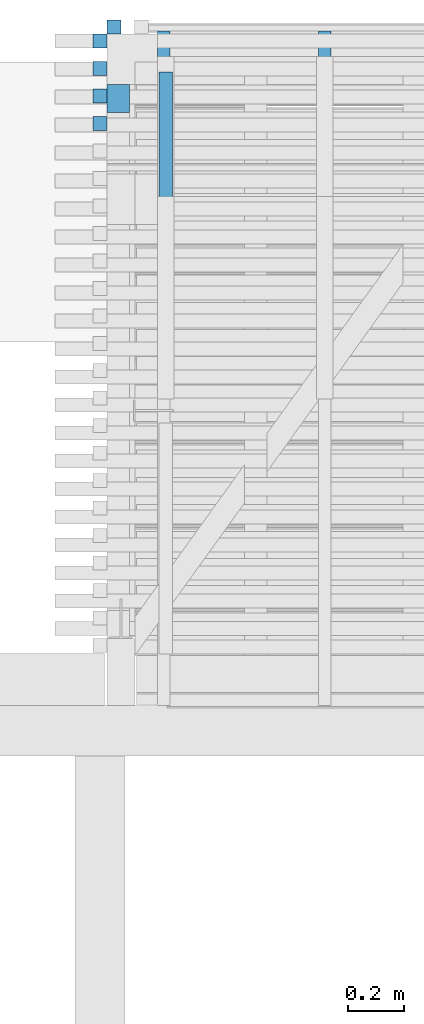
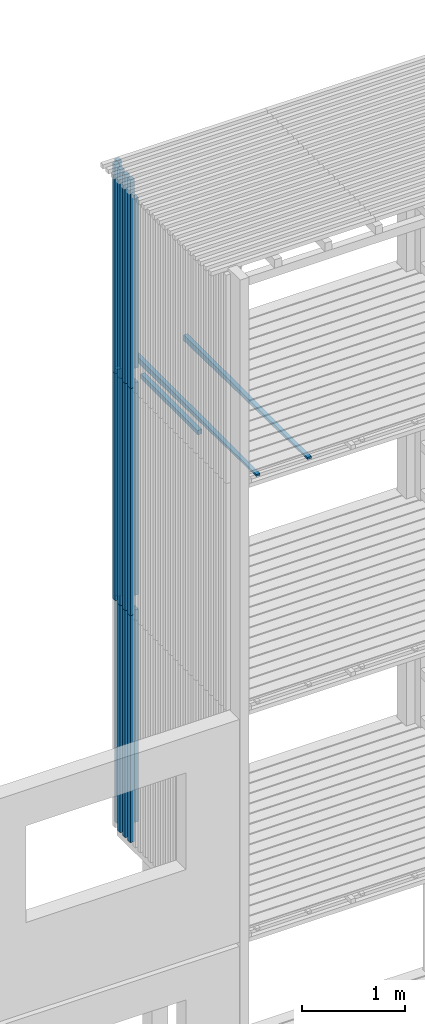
# One storey, part 64 of 182: 20 beams.
"""IFC2X3 building model written with IfcOpenShell, lengths in metres."""

import ifcopenshell
import ifcopenshell.guid

model = None  # the IFC model being written
_history = None  # IfcOwnerHistory: only IFC2X3 demands one
_inside = {}  # id of a spatial element -> (the spatial element, [elements in it])
_under = {}  # id of a project, library or spatial element -> (it, [spatial elements below it])
_declared = {}  # id of a project -> (the project, [libraries it declares])
_typed = {}  # id of a type object -> (the type object, [elements of that type])
_made_of = {}  # id of a material, layer set ... -> (it, [elements and type objects made of it])


def new_model(schema):
    """Start an empty IFC model of exactly this schema.

    Asked for "IFC4X3", IfcOpenShell would pick the latest addendum, in which some entities
    have other attributes; the version numbers below select the first issue.
    IFC2X3 requires an IfcOwnerHistory on every rooted entity: one is made here for all.
    """
    global model, _history
    if schema == "IFC4X3":
        model = ifcopenshell.file(schema_version=(4, 3, 0, 0))
    else:
        model = ifcopenshell.file(schema=schema)
    _inside.clear()
    _under.clear()
    _declared.clear()
    _typed.clear()
    _made_of.clear()
    _history = None
    if model.schema == "IFC2X3":
        org = make("IfcOrganization", Name="unknown")
        user = make(
            "IfcPersonAndOrganization",
            ThePerson=make("IfcPerson", FamilyName="unknown"),
            TheOrganization=org,
        )
        app = make(
            "IfcApplication",
            ApplicationDeveloper=org,
            Version="unknown",
            ApplicationFullName="unknown",
            ApplicationIdentifier="unknown",
        )
        _history = make(
            "IfcOwnerHistory",
            OwningUser=user,
            OwningApplication=app,
            ChangeAction="ADDED",
            CreationDate=0,
        )
    return model


def make(cls, **values):
    """One entity of the class cls with the attributes given. An attribute that is None is left unset."""
    return model.create_entity(
        cls, **{name: value for name, value in values.items() if value is not None}
    )


def rooted(cls, **values):
    """An entity with a GlobalId (a new one), such as an element, a storey or a relation."""
    return make(cls, GlobalId=ifcopenshell.guid.new(), OwnerHistory=_history, **values)


def si_unit(unit_type, name, prefix=None):
    """IfcSIUnit, for example si_unit("LENGTHUNIT", "METRE", prefix="MILLI")."""
    return make("IfcSIUnit", UnitType=unit_type, Prefix=prefix, Name=name)


def assignment(units):
    """IfcUnitAssignment: the units of a project."""
    return None if units is None else make("IfcUnitAssignment", Units=units)


def point(xyz):
    """IfcCartesianPoint."""
    return None if xyz is None else make("IfcCartesianPoint", Coordinates=xyz)


def direction(xyz):
    """IfcDirection."""
    return None if xyz is None else make("IfcDirection", DirectionRatios=xyz)


def frame(location, z_axis=None, x_axis=None):
    """IfcAxis2Placement3D, a coordinate frame: its origin and axes. An axis left out is left unset."""
    return make(
        "IfcAxis2Placement3D",
        Location=point(location),
        Axis=direction(z_axis),
        RefDirection=direction(x_axis),
    )


def origin():
    """The frame at (0, 0, 0) with its axes left unset."""
    return frame((0.0, 0.0, 0.0))


def place(relative_to, where):
    """IfcLocalPlacement: puts the frame where relative to a parent placement (None: the world)."""
    return make(
        "IfcLocalPlacement", PlacementRelTo=relative_to, RelativePlacement=where
    )


def context(
    kind, dimensions, precision=None, world=None, true_north=None, identifier=None
):
    """IfcGeometricRepresentationContext, for example the 3D "Model" context."""
    return make(
        "IfcGeometricRepresentationContext",
        ContextIdentifier=identifier,
        ContextType=kind,
        CoordinateSpaceDimension=dimensions,
        Precision=precision,
        WorldCoordinateSystem=world,
        TrueNorth=true_north,
    )


def project(units=None, contexts=None):
    """IfcProject with its units and contexts."""
    return rooted(
        "IfcProject",
        Name="project",
        RepresentationContexts=contexts,
        UnitsInContext=assignment(units),
    )


def spatial(cls, under=None, at=None, **own):
    """A site, building, storey or space (cls), placed at a placement, below another one or the project."""
    s = rooted(cls, ObjectPlacement=at, **own)
    if under is not None:
        _under.setdefault(under.id(), (under, []))[1].append(s)
    return s


def faces_of(points, faces, orient=None, outer=None):
    """IfcFace entities. A face is a list of loops; a loop is a list of indices into points, from 0.

    orient and outer hold one flag for each loop. By default every Orientation is true, the
    first loop of a face is its IfcFaceOuterBound and the others are IfcFaceBound.
    """
    made = []
    for i, loops in enumerate(faces):
        bounds = []
        for j, loop in enumerate(loops):
            is_outer = j == 0 if outer is None else outer[i][j]
            bounds.append(
                make(
                    "IfcFaceOuterBound" if is_outer else "IfcFaceBound",
                    Bound=make("IfcPolyLoop", Polygon=[points[k] for k in loop]),
                    Orientation=True if orient is None else orient[i][j],
                )
            )
        made.append(make("IfcFace", Bounds=bounds))
    return made


def faceted_brep(points, faces, orient=None, outer=None, voids=None):
    """IfcFacetedBrep: a solid bounded by flat faces; with voids (closed shells), ...WithVoids."""
    shared = [point(p) for p in points]
    hull = make("IfcClosedShell", CfsFaces=faces_of(shared, faces, orient, outer))
    if voids is None:
        return make("IfcFacetedBrep", Outer=hull)
    return make(
        "IfcFacetedBrepWithVoids",
        Outer=hull,
        Voids=[
            make(cls, CfsFaces=faces_of(shared, fs, o, b)) for cls, fs, o, b in voids
        ],
    )


def shape(context_of_items, identifier, shape_type, items):
    """IfcShapeRepresentation: the items that make up one representation, for example the "Body"."""
    return make(
        "IfcShapeRepresentation",
        ContextOfItems=context_of_items,
        RepresentationIdentifier=identifier,
        RepresentationType=shape_type,
        Items=items,
    )


def made_of(thing, what):
    """Note that an element or type object is made of a material, layer set ...; save() writes the relation."""
    if what is not None:
        _made_of.setdefault(what.id(), (what, []))[1].append(thing)
    return thing


def element(
    cls,
    number,
    at=None,
    inside=None,
    cuts=None,
    type_object=None,
    material=None,
    context=None,
    identifier="Body",
    shape_type=None,
    held_by="IfcProductDefinitionShape",
    body=None,
    shapes=None,
    **own,
):
    """One element of the class cls, such as IfcWall. Its Tag is "e" and its number.

    at: its placement. inside: the storey or other place that contains it. cuts: it is an
    opening in that element (IfcRelVoidsElement). A single representation is given by context,
    identifier, shape_type and body (its items); several are given by shapes. held_by: the class
    of the entity that holds the representations. save() writes the other relations.
    """
    e = rooted(cls, Tag="e%d" % number, ObjectPlacement=at, **own)
    if body is not None:
        shapes = [shape(context, identifier, shape_type, body)]
    if shapes is not None:
        e.Representation = make(held_by, Representations=shapes)
    if inside is not None:
        _inside.setdefault(inside.id(), (inside, []))[1].append(e)
    if cuts is not None:
        rooted(
            "IfcRelVoidsElement", RelatingBuildingElement=cuts, RelatedOpeningElement=e
        )
    if type_object is not None:
        _typed.setdefault(type_object.id(), (type_object, []))[1].append(e)
    return made_of(e, material)


def aggregate(whole, parts):
    """IfcRelAggregates: a whole, such as a stair, and the parts it consists of."""
    return rooted("IfcRelAggregates", RelatingObject=whole, RelatedObjects=parts)


def save(model, path):
    """Write the relations noted so far, then the file.

    IfcRelAggregates (storeys below a building ...), IfcRelContainedInSpatialStructure (elements
    in a storey), IfcRelDefinesByType, IfcRelAssociatesMaterial and IfcRelDeclares: one each for
    every whole, place, type object, material and project.
    """
    for whole, parts in _under.values():
        aggregate(whole, parts)
    for where, things in _inside.values():
        rooted(
            "IfcRelContainedInSpatialStructure",
            RelatedElements=things,
            RelatingStructure=where,
        )
    for kind, things in _typed.values():
        rooted("IfcRelDefinesByType", RelatedObjects=things, RelatingType=kind)
    for what, things in _made_of.values():
        rooted("IfcRelAssociatesMaterial", RelatedObjects=things, RelatingMaterial=what)
    for by, libraries in _declared.values():
        rooted("IfcRelDeclares", RelatingContext=by, RelatedDefinitions=libraries)
    model.write(path)


model = new_model("IFC2X3")

# Units and contexts
model_context = context("Model", 3, precision=1e-06, world=origin())
ifc_project = project(units=[si_unit("LENGTHUNIT", "METRE"), si_unit("PLANEANGLEUNIT", "RADIAN")], contexts=[model_context])

# Site, building, storey
site = spatial("IfcSite", under=ifc_project, CompositionType="ELEMENT")
building = spatial("IfcBuilding", under=site, CompositionType="ELEMENT")
storey = spatial("IfcBuildingStorey", under=building, Name="vs", CompositionType="ELEMENT", Elevation=-0.85)

# Beams
placement = place(None, origin())
beam_1_placement = place(placement, frame((23.019999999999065, 12.550532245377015, 5.274999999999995), z_axis=(1.0, 0.0, 0.0), x_axis=(0.0, 0.0, 1.0)))
element("IfcBeam", 1, at=beam_1_placement, inside=storey, Name="Bardage", context=model_context, shape_type="Brep", body=[
    faceted_brep([(2.699999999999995, 0.025000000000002, 0.025000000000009), (2.699999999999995, -0.025000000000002, 0.025000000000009), (2.699999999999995, -0.025000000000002, -0.025000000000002), (2.699999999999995, 0.025000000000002, -0.025000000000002), (1e-15, 0.025000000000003, 0.025000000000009), (2.699999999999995, 0.025000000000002, 0.025000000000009), (2.699999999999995, 0.025000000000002, -0.025000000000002), (1e-15, 0.025000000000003, -0.025000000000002), (1e-15, -0.025000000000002, 0.025000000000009), (1e-15, 0.025000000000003, 0.025000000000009), (1e-15, 0.025000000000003, -0.025000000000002), (1e-15, -0.025000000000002, -0.025000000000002), (1e-15, 0.025000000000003, 0.025000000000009), (1e-15, -0.025000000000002, 0.025000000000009), (2.699999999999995, -0.025000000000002, 0.025000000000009), (2.699999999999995, 0.025000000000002, 0.025000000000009), (1e-15, -0.025000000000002, 0.025000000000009), (1e-15, -0.025000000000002, -0.025000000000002), (2.699999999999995, -0.025000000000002, -0.025000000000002), (2.699999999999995, -0.025000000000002, 0.025000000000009), (1e-15, -0.025000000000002, -0.025000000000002), (1e-15, 0.025000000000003, -0.025000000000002), (2.699999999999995, 0.025000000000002, -0.025000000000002), (2.699999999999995, -0.025000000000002, -0.025000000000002)], [[[0, 1, 2, 3]], [[4, 5, 6, 7]], [[8, 9, 10, 11]], [[12, 13, 14, 15]], [[16, 17, 18, 19]], [[20, 21, 22, 23]]]),
])
beam_2_placement = place(placement, frame((23.08499999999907, 12.640077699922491, 8.146999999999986), z_axis=(0.0, -1.0, 0.0), x_axis=(0.0, 0.0, 1.0)))
element("IfcBeam", 2, at=beam_2_placement, inside=storey, Name="Support bardage", context=model_context, shape_type="Brep", body=[
    faceted_brep([(2.017999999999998, -0.040000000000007, -0.050000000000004), (2.017999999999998, 0.039999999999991, -0.050000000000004), (2.017999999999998, 0.039999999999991, 0.049999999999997), (2.017999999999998, -0.040000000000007, 0.049999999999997), (1e-15, 0.039999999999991, -0.050000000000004), (1e-15, -0.040000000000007, -0.050000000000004), (1e-15, -0.040000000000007, 0.049999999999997), (1e-15, 0.039999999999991, 0.049999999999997), (2.017999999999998, 0.039999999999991, 0.049999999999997), (2.017999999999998, 0.039999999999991, -0.050000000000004), (1e-15, 0.039999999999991, -0.050000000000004), (1e-15, 0.039999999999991, 0.049999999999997), (1e-15, 0.039999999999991, -0.050000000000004), (2.017999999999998, 0.039999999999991, -0.050000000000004), (2.017999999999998, -0.040000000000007, -0.050000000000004), (1e-15, -0.040000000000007, -0.050000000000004), (1e-15, -0.040000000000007, -0.050000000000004), (2.017999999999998, -0.040000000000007, -0.050000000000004), (2.017999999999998, -0.040000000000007, 0.049999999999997), (1e-15, -0.040000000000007, 0.049999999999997), (1e-15, -0.040000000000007, 0.049999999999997), (2.017999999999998, -0.040000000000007, 0.049999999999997), (2.017999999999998, 0.039999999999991, 0.049999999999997), (1e-15, 0.039999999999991, 0.049999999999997)], [[[0, 1, 2, 3]], [[4, 5, 6, 7]], [[8, 9, 10, 11]], [[12, 13, 14, 15]], [[16, 17, 18, 19]], [[20, 21, 22, 23]]]),
])
beam_3_placement = place(placement, frame((23.019999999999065, 12.648714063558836, 7.974999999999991), z_axis=(1.0, 0.0, 0.0), x_axis=(0.0, 0.0, 1.0)))
element("IfcBeam", 3, at=beam_3_placement, inside=storey, Name="Bardage", context=model_context, shape_type="Brep", body=[
    faceted_brep([(0.0, -0.024999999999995, 0.025000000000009), (0.0, 0.025000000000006, 0.025000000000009), (0.0, 0.025000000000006, -0.025000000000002), (0.0, -0.024999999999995, -0.025000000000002), (2.479999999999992, 0.025000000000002, -0.025000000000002), (2.479999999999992, 0.025000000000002, 0.025000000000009), (2.479999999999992, -0.024999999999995, 0.025000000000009), (2.479999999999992, -0.024999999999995, -0.025000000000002), (0.0, 0.025000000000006, 0.025000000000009), (0.0, -0.024999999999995, 0.025000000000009), (2.479999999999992, -0.024999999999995, 0.025000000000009), (2.479999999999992, 0.025000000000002, 0.025000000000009), (0.0, 0.025000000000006, -0.025000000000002), (0.0, 0.025000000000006, 0.025000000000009), (2.479999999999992, 0.025000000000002, 0.025000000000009), (2.479999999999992, 0.025000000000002, -0.025000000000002), (0.0, -0.024999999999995, -0.025000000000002), (0.0, 0.025000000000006, -0.025000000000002), (2.479999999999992, 0.025000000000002, -0.025000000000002), (2.479999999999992, -0.024999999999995, -0.025000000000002), (2.479999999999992, -0.024999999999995, 0.025000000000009), (0.0, -0.024999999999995, 0.025000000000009), (0.0, -0.024999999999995, -0.025000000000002), (2.479999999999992, -0.024999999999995, -0.025000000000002)], [[[0, 1, 2, 3]], [[4, 5, 6, 7]], [[8, 9, 10, 11]], [[12, 13, 14, 15]], [[16, 17, 18, 19]], [[20, 21, 22, 23]]]),
])
beam_4_placement = place(placement, frame((23.06999999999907, 12.895077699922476, 7.974999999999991), z_axis=(0.0, -1.0, 0.0), x_axis=(0.0, 0.0, 1.0)))
element("IfcBeam", 4, at=beam_4_placement, inside=storey, Name="Bardage", context=model_context, shape_type="Brep", body=[
    faceted_brep([(2.479999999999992, -0.025000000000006, 0.025000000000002), (2.479999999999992, -0.024999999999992, -0.024999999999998), (2.479999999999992, 0.025000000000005, -0.024999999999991), (2.479999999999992, 0.024999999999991, 0.025000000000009), (0.0, 0.024999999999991, 0.025000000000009), (0.0, -0.025000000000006, 0.025000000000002), (2.479999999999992, -0.025000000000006, 0.025000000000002), (2.479999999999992, 0.024999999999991, 0.025000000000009), (0.0, -0.025000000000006, 0.025000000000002), (0.0, 0.024999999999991, 0.025000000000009), (0.0, 0.025000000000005, -0.024999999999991), (0.0, -0.024999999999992, -0.024999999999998), (0.0, 0.025000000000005, -0.024999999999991), (0.0, 0.024999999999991, 0.025000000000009), (2.479999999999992, 0.024999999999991, 0.025000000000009), (2.479999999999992, 0.025000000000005, -0.024999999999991), (0.0, -0.024999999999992, -0.024999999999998), (0.0, 0.025000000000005, -0.024999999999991), (2.479999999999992, 0.025000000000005, -0.024999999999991), (2.479999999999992, -0.024999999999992, -0.024999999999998), (2.479999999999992, -0.025000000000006, 0.025000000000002), (0.0, -0.025000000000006, 0.025000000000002), (0.0, -0.024999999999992, -0.024999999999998), (2.479999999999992, -0.024999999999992, -0.024999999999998)], [[[0, 1, 2, 3]], [[4, 5, 6, 7]], [[8, 9, 10, 11]], [[12, 13, 14, 15]], [[16, 17, 18, 19]], [[20, 21, 22, 23]]]),
])
beam_5_placement = place(placement, frame((23.019999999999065, 12.648714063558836, 2.575000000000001), z_axis=(1.0, 0.0, 0.0), x_axis=(0.0, 0.0, 1.0)))
element("IfcBeam", 5, at=beam_5_placement, inside=storey, Name="Bardage", context=model_context, shape_type="Brep", body=[
    faceted_brep([(2.699961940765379, -0.024999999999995, 0.025000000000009), (2.699961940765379, -0.024999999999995, -0.025000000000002), (2.699961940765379, 0.025000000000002, -0.025000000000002), (2.699961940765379, 0.025000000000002, 0.025000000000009), (0.0, -0.024999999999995, 0.025000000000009), (2.699961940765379, -0.024999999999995, 0.025000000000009), (2.699961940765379, 0.025000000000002, 0.025000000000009), (0.0, 0.025000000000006, 0.025000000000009), (0.0, -0.024999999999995, 0.025000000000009), (0.0, 0.025000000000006, 0.025000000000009), (0.0, 0.025000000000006, -0.025000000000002), (0.0, -0.024999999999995, -0.025000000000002), (0.0, -0.024999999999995, 0.025000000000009), (0.0, -0.024999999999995, -0.025000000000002), (2.699961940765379, -0.024999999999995, -0.025000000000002), (2.699961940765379, -0.024999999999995, 0.025000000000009), (0.0, -0.024999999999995, -0.025000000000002), (0.0, 0.025000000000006, -0.025000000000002), (2.699961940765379, 0.025000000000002, -0.025000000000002), (2.699961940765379, -0.024999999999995, -0.025000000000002), (0.0, 0.025000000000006, -0.025000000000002), (0.0, 0.025000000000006, 0.025000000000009), (2.699961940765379, 0.025000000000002, 0.025000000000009), (2.699961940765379, 0.025000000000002, -0.025000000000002)], [[[0, 1, 2, 3]], [[4, 5, 6, 7]], [[8, 9, 10, 11]], [[12, 13, 14, 15]], [[16, 17, 18, 19]], [[20, 21, 22, 23]]]),
])
beam_6_placement = place(placement, frame((23.08499999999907, 12.640077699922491, 2.746999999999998), z_axis=(0.0, -1.0, 0.0), x_axis=(0.0, 0.0, 1.0)))
element("IfcBeam", 6, at=beam_6_placement, inside=storey, Name="Support bardage", context=model_context, shape_type="Brep", body=[
    faceted_brep([(2.527961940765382, 0.039999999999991, 0.049999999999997), (2.527961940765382, -0.040000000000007, 0.049999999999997), (2.527961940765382, -0.040000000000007, -0.050000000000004), (2.527961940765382, 0.039999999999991, -0.050000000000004), (0.0, 0.039999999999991, 0.049999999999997), (2.527961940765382, 0.039999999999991, 0.049999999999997), (2.527961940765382, 0.039999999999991, -0.050000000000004), (0.0, 0.039999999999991, -0.050000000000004), (0.0, 0.039999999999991, 0.049999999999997), (0.0, 0.039999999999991, -0.050000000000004), (0.0, -0.040000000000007, -0.050000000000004), (0.0, -0.040000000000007, 0.049999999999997), (0.0, 0.039999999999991, 0.049999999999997), (0.0, -0.040000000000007, 0.049999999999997), (2.527961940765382, -0.040000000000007, 0.049999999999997), (2.527961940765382, 0.039999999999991, 0.049999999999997), (0.0, -0.040000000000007, 0.049999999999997), (0.0, -0.040000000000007, -0.050000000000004), (2.527961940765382, -0.040000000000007, -0.050000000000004), (2.527961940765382, -0.040000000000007, 0.049999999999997), (0.0, -0.040000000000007, -0.050000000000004), (0.0, 0.039999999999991, -0.050000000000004), (2.527961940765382, 0.039999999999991, -0.050000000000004), (2.527961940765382, -0.040000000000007, -0.050000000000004)], [[[0, 1, 2, 3]], [[4, 5, 6, 7]], [[8, 9, 10, 11]], [[12, 13, 14, 15]], [[16, 17, 18, 19]], [[20, 21, 22, 23]]]),
])
beam_7_placement = place(placement, frame((23.019999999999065, 12.550532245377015, 7.974999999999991), z_axis=(1.0, 0.0, 0.0), x_axis=(0.0, 0.0, 1.0)))
element("IfcBeam", 7, at=beam_7_placement, inside=storey, Name="Bardage", context=model_context, shape_type="Brep", body=[
    faceted_brep([(0.0, -0.025000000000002, 0.025000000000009), (0.0, 0.025000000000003, 0.025000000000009), (0.0, 0.025000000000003, -0.025000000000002), (0.0, -0.025000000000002, -0.025000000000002), (2.479999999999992, 0.025000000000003, -0.025000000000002), (2.479999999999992, 0.025000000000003, 0.025000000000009), (2.479999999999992, -0.025000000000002, 0.025000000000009), (2.479999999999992, -0.025000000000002, -0.025000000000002), (0.0, 0.025000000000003, 0.025000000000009), (0.0, -0.025000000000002, 0.025000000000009), (2.479999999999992, -0.025000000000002, 0.025000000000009), (2.479999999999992, 0.025000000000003, 0.025000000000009), (0.0, 0.025000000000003, -0.025000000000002), (0.0, 0.025000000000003, 0.025000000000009), (2.479999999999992, 0.025000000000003, 0.025000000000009), (2.479999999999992, 0.025000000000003, -0.025000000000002), (0.0, -0.025000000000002, -0.025000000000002), (0.0, 0.025000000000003, -0.025000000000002), (2.479999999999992, 0.025000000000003, -0.025000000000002), (2.479999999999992, -0.025000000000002, -0.025000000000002), (2.479999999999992, -0.025000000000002, 0.025000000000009), (0.0, -0.025000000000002, 0.025000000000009), (0.0, -0.025000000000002, -0.025000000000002), (2.479999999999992, -0.025000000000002, -0.025000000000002)], [[[0, 1, 2, 3]], [[4, 5, 6, 7]], [[8, 9, 10, 11]], [[12, 13, 14, 15]], [[16, 17, 18, 19]], [[20, 21, 22, 23]]]),
])
beam_8_placement = place(placement, frame((23.019999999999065, 12.845077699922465, 7.974999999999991), z_axis=(1.0, 0.0, 0.0), x_axis=(0.0, 3e-15, 1.0)))
element("IfcBeam", 8, at=beam_8_placement, inside=storey, Name="Bardage", context=model_context, shape_type="Brep", body=[
    faceted_brep([(0.0, -0.025000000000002, 0.025000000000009), (-1e-15, 0.025000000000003, 0.025000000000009), (-1e-15, 0.025000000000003, -0.025000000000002), (0.0, -0.025000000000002, -0.025000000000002), (2.479999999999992, 0.02500000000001, -0.025000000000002), (2.479999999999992, 0.02500000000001, 0.025000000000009), (2.479999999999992, -0.024999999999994, 0.025000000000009), (2.479999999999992, -0.024999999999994, -0.025000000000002), (-1e-15, 0.025000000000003, 0.025000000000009), (0.0, -0.025000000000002, 0.025000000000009), (2.479999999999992, -0.024999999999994, 0.025000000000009), (2.479999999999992, 0.02500000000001, 0.025000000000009), (-1e-15, 0.025000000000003, -0.025000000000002), (-1e-15, 0.025000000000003, 0.025000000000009), (2.479999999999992, 0.02500000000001, 0.025000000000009), (2.479999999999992, 0.02500000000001, -0.025000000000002), (0.0, -0.025000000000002, -0.025000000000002), (-1e-15, 0.025000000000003, -0.025000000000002), (2.479999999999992, 0.02500000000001, -0.025000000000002), (2.479999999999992, -0.024999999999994, -0.025000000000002), (2.479999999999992, -0.024999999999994, 0.025000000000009), (0.0, -0.025000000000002, 0.025000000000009), (0.0, -0.025000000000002, -0.025000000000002), (2.479999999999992, -0.024999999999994, -0.025000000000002)], [[[0, 1, 2, 3]], [[4, 5, 6, 7]], [[8, 9, 10, 11]], [[12, 13, 14, 15]], [[16, 17, 18, 19]], [[20, 21, 22, 23]]]),
])
beam_9_placement = place(placement, frame((23.019999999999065, 12.746895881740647, 7.974999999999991), z_axis=(1.0, 0.0, 0.0), x_axis=(0.0, 0.0, 1.0)))
element("IfcBeam", 9, at=beam_9_placement, inside=storey, Name="Bardage", context=model_context, shape_type="Brep", body=[
    faceted_brep([(0.0, -0.024999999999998, 0.025000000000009), (0.0, 0.024999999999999, 0.025000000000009), (0.0, 0.024999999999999, -0.025000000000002), (0.0, -0.024999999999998, -0.025000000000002), (2.479999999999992, 0.024999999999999, -0.025000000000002), (2.479999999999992, 0.024999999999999, 0.025000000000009), (2.479999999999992, -0.025000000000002, 0.025000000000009), (2.479999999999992, -0.025000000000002, -0.025000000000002), (0.0, 0.024999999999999, 0.025000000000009), (0.0, -0.024999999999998, 0.025000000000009), (2.479999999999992, -0.025000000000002, 0.025000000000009), (2.479999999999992, 0.024999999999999, 0.025000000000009), (0.0, 0.024999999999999, -0.025000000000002), (0.0, 0.024999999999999, 0.025000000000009), (2.479999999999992, 0.024999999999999, 0.025000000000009), (2.479999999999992, 0.024999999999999, -0.025000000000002), (0.0, -0.024999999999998, -0.025000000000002), (0.0, 0.024999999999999, -0.025000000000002), (2.479999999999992, 0.024999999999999, -0.025000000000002), (2.479999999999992, -0.025000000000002, -0.025000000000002), (2.479999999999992, -0.025000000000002, 0.025000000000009), (0.0, -0.024999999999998, 0.025000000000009), (0.0, -0.024999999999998, -0.025000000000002), (2.479999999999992, -0.025000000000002, -0.025000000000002)], [[[0, 1, 2, 3]], [[4, 5, 6, 7]], [[8, 9, 10, 11]], [[12, 13, 14, 15]], [[16, 17, 18, 19]], [[20, 21, 22, 23]]]),
])
beam_10_placement = place(placement, frame((23.019999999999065, 12.550532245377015, 2.575000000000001), z_axis=(1.0, 0.0, 0.0), x_axis=(0.0, 0.0, 1.0)))
element("IfcBeam", 10, at=beam_10_placement, inside=storey, Name="Bardage", context=model_context, shape_type="Brep", body=[
    faceted_brep([(2.699961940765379, -0.025000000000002, 0.025000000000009), (2.699961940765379, -0.025000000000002, -0.025000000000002), (2.699961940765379, 0.025000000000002, -0.025000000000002), (2.699961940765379, 0.025000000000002, 0.025000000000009), (0.0, -0.025000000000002, 0.025000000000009), (2.699961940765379, -0.025000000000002, 0.025000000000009), (2.699961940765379, 0.025000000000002, 0.025000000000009), (0.0, 0.025000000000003, 0.025000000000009), (0.0, -0.025000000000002, 0.025000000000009), (0.0, 0.025000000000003, 0.025000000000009), (0.0, 0.025000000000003, -0.025000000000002), (0.0, -0.025000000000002, -0.025000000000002), (0.0, -0.025000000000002, 0.025000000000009), (0.0, -0.025000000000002, -0.025000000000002), (2.699961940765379, -0.025000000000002, -0.025000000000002), (2.699961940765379, -0.025000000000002, 0.025000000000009), (0.0, -0.025000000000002, -0.025000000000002), (0.0, 0.025000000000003, -0.025000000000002), (2.699961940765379, 0.025000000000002, -0.025000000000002), (2.699961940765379, -0.025000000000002, -0.025000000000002), (0.0, 0.025000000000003, -0.025000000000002), (0.0, 0.025000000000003, 0.025000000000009), (2.699961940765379, 0.025000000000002, 0.025000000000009), (2.699961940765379, 0.025000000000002, -0.025000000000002)], [[[0, 1, 2, 3]], [[4, 5, 6, 7]], [[8, 9, 10, 11]], [[12, 13, 14, 15]], [[16, 17, 18, 19]], [[20, 21, 22, 23]]]),
])
beam_11_placement = place(placement, frame((23.06999999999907, 12.895077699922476, 5.274999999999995), z_axis=(0.0, -1.0, 0.0), x_axis=(0.0, 0.0, 1.0)))
element("IfcBeam", 11, at=beam_11_placement, inside=storey, Name="Bardage", context=model_context, shape_type="Brep", body=[
    faceted_brep([(1e-15, -0.025000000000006, 0.025000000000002), (1e-15, 0.024999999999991, 0.025000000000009), (1e-15, 0.025000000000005, -0.024999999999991), (1e-15, -0.024999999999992, -0.024999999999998), (2.699999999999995, -0.024999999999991, -0.024999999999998), (2.699999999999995, 0.025000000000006, -0.024999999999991), (2.699999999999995, 0.024999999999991, 0.025000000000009), (2.699999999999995, -0.025000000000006, 0.025000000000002), (1e-15, -0.025000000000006, 0.025000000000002), (1e-15, -0.024999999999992, -0.024999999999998), (2.699999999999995, -0.024999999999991, -0.024999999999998), (2.699999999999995, -0.025000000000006, 0.025000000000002), (2.699999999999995, -0.024999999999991, -0.024999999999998), (1e-15, -0.024999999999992, -0.024999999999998), (1e-15, 0.025000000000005, -0.024999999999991), (2.699999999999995, 0.025000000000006, -0.024999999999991), (2.699999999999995, 0.025000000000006, -0.024999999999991), (1e-15, 0.025000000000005, -0.024999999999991), (1e-15, 0.024999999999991, 0.025000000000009), (2.699999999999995, 0.024999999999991, 0.025000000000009), (2.699999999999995, 0.024999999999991, 0.025000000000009), (1e-15, 0.024999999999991, 0.025000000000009), (1e-15, -0.025000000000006, 0.025000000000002), (2.699999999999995, -0.025000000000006, 0.025000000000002)], [[[0, 1, 2, 3]], [[4, 5, 6, 7]], [[8, 9, 10, 11]], [[12, 13, 14, 15]], [[16, 17, 18, 19]], [[20, 21, 22, 23]]]),
])
beam_12_placement = place(placement, frame((23.24749999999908, 10.470077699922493, 8.084400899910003), z_axis=(0.0, 0.0, 1.0), x_axis=(0.0, 1.0, 0.0)))
element("IfcBeam", 12, at=beam_12_placement, inside=storey, Name="Calage", context=model_context, shape_type="Brep", body=[
    faceted_brep([(2.41000000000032, -0.022499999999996, -0.035599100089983), (0.0, -0.022499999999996, 0.012600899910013), (0.0, 0.022500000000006, 0.012600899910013), (2.41000000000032, 0.022500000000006, -0.035599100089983), (0.0, 0.022500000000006, 0.035599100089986), (0.0, 0.022500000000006, 0.012600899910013), (0.0, -0.022499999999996, 0.012600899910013), (0.0, -0.022499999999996, 0.035599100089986), (2.41000000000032, 0.022500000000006, -0.035599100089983), (0.0, 0.022500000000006, 0.012600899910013), (0.0, 0.022500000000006, 0.035599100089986), (2.41000000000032, 0.022500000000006, 0.035599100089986), (2.41000000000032, -0.022499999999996, 0.035599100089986), (0.0, -0.022499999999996, 0.035599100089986), (0.0, -0.022499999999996, 0.012600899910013), (2.41000000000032, -0.022499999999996, -0.035599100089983), (2.41000000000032, 0.022500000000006, 0.035599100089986), (0.0, 0.022500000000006, 0.035599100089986), (0.0, -0.022499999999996, 0.035599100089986), (2.41000000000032, -0.022499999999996, 0.035599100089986), (2.41000000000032, 0.022500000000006, -0.035599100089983), (2.41000000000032, 0.022500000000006, 0.035599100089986), (2.41000000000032, -0.022499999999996, 0.035599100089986), (2.41000000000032, -0.022499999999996, -0.035599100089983)], [[[0, 1, 2, 3]], [[4, 5, 6, 7]], [[8, 9, 10, 11]], [[12, 13, 14, 15]], [[16, 17, 18, 19]], [[20, 21, 22, 23]]]),
])
beam_13_placement = place(placement, frame((23.06999999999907, 12.895077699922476, 2.575000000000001), z_axis=(0.0, -1.0, 0.0), x_axis=(0.0, 0.0, 1.0)))
element("IfcBeam", 13, at=beam_13_placement, inside=storey, Name="Bardage", context=model_context, shape_type="Brep", body=[
    faceted_brep([(0.0, -0.025000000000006, 0.025000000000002), (0.0, 0.024999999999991, 0.025000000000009), (0.0, 0.025000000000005, -0.024999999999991), (0.0, -0.024999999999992, -0.024999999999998), (2.699961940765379, 0.025000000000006, -0.024999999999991), (2.699961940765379, 0.024999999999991, 0.025000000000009), (2.699961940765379, -0.025000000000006, 0.025000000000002), (2.699961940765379, -0.024999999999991, -0.024999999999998), (0.0, -0.024999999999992, -0.024999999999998), (0.0, 0.025000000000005, -0.024999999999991), (2.699961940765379, 0.025000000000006, -0.024999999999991), (2.699961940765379, -0.024999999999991, -0.024999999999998), (2.699961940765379, 0.025000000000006, -0.024999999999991), (0.0, 0.025000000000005, -0.024999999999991), (0.0, 0.024999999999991, 0.025000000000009), (2.699961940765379, 0.024999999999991, 0.025000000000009), (2.699961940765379, 0.024999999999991, 0.025000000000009), (0.0, 0.024999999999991, 0.025000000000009), (0.0, -0.025000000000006, 0.025000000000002), (2.699961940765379, -0.025000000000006, 0.025000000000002), (2.699961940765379, -0.025000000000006, 0.025000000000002), (0.0, -0.025000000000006, 0.025000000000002), (0.0, -0.024999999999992, -0.024999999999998), (2.699961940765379, -0.024999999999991, -0.024999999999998)], [[[0, 1, 2, 3]], [[4, 5, 6, 7]], [[8, 9, 10, 11]], [[12, 13, 14, 15]], [[16, 17, 18, 19]], [[20, 21, 22, 23]]]),
])
beam_14_placement = place(placement, frame((23.019999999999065, 12.746895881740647, 2.575000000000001), z_axis=(1.0, 0.0, 0.0), x_axis=(0.0, 0.0, 1.0)))
element("IfcBeam", 14, at=beam_14_placement, inside=storey, Name="Bardage", context=model_context, shape_type="Brep", body=[
    faceted_brep([(2.699961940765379, -0.025000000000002, 0.025000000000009), (2.699961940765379, -0.025000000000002, -0.025000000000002), (2.699961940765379, 0.024999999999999, -0.025000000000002), (2.699961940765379, 0.024999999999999, 0.025000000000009), (0.0, -0.024999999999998, 0.025000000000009), (2.699961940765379, -0.025000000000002, 0.025000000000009), (2.699961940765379, 0.024999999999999, 0.025000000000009), (0.0, 0.024999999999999, 0.025000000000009), (0.0, -0.024999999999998, 0.025000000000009), (0.0, 0.024999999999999, 0.025000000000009), (0.0, 0.024999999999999, -0.025000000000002), (0.0, -0.024999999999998, -0.025000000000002), (0.0, -0.024999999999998, 0.025000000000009), (0.0, -0.024999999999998, -0.025000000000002), (2.699961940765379, -0.025000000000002, -0.025000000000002), (2.699961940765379, -0.025000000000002, 0.025000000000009), (0.0, -0.024999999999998, -0.025000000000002), (0.0, 0.024999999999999, -0.025000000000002), (2.699961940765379, 0.024999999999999, -0.025000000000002), (2.699961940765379, -0.025000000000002, -0.025000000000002), (0.0, 0.024999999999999, -0.025000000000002), (0.0, 0.024999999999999, 0.025000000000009), (2.699961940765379, 0.024999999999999, 0.025000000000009), (2.699961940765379, 0.024999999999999, -0.025000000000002)], [[[0, 1, 2, 3]], [[4, 5, 6, 7]], [[8, 9, 10, 11]], [[12, 13, 14, 15]], [[16, 17, 18, 19]], [[20, 21, 22, 23]]]),
])
beam_15_placement = place(placement, frame((23.019999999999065, 12.648714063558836, 5.274999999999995), z_axis=(1.0, 0.0, 0.0), x_axis=(0.0, 0.0, 1.0)))
element("IfcBeam", 15, at=beam_15_placement, inside=storey, Name="Bardage", context=model_context, shape_type="Brep", body=[
    faceted_brep([(2.699999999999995, 0.025000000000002, 0.025000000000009), (2.699999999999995, -0.024999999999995, 0.025000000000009), (2.699999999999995, -0.024999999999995, -0.025000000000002), (2.699999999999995, 0.025000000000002, -0.025000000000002), (1e-15, 0.025000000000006, 0.025000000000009), (2.699999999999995, 0.025000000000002, 0.025000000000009), (2.699999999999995, 0.025000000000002, -0.025000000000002), (1e-15, 0.025000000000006, -0.025000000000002), (1e-15, -0.024999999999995, 0.025000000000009), (1e-15, 0.025000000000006, 0.025000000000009), (1e-15, 0.025000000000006, -0.025000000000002), (1e-15, -0.024999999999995, -0.025000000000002), (1e-15, 0.025000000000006, 0.025000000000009), (1e-15, -0.024999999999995, 0.025000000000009), (2.699999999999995, -0.024999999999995, 0.025000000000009), (2.699999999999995, 0.025000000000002, 0.025000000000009), (1e-15, -0.024999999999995, 0.025000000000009), (1e-15, -0.024999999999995, -0.025000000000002), (2.699999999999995, -0.024999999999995, -0.025000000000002), (2.699999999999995, -0.024999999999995, 0.025000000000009), (1e-15, -0.024999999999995, -0.025000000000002), (1e-15, 0.025000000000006, -0.025000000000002), (2.699999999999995, 0.025000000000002, -0.025000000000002), (2.699999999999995, -0.024999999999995, -0.025000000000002)], [[[0, 1, 2, 3]], [[4, 5, 6, 7]], [[8, 9, 10, 11]], [[12, 13, 14, 15]], [[16, 17, 18, 19]], [[20, 21, 22, 23]]]),
])
beam_16_placement = place(placement, frame((23.019999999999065, 12.845077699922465, 5.274999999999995), z_axis=(1.0, 0.0, 0.0), x_axis=(0.0, 3e-15, 1.0)))
element("IfcBeam", 16, at=beam_16_placement, inside=storey, Name="Bardage", context=model_context, shape_type="Brep", body=[
    faceted_brep([(2.699999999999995, 0.02500000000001, 0.025000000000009), (2.699999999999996, -0.024999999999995, 0.025000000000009), (2.699999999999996, -0.024999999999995, -0.025000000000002), (2.699999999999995, 0.02500000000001, -0.025000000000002), (1e-15, 0.025000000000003, 0.025000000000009), (2.699999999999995, 0.02500000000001, 0.025000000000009), (2.699999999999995, 0.02500000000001, -0.025000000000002), (1e-15, 0.025000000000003, -0.025000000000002), (2e-15, -0.025000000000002, 0.025000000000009), (1e-15, 0.025000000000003, 0.025000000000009), (1e-15, 0.025000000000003, -0.025000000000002), (2e-15, -0.025000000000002, -0.025000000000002), (1e-15, 0.025000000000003, 0.025000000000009), (2e-15, -0.025000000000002, 0.025000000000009), (2.699999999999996, -0.024999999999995, 0.025000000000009), (2.699999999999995, 0.02500000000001, 0.025000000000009), (2e-15, -0.025000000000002, 0.025000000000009), (2e-15, -0.025000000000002, -0.025000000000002), (2.699999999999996, -0.024999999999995, -0.025000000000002), (2.699999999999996, -0.024999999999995, 0.025000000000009), (2e-15, -0.025000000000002, -0.025000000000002), (1e-15, 0.025000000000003, -0.025000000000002), (2.699999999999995, 0.02500000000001, -0.025000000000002), (2.699999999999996, -0.024999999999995, -0.025000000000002)], [[[0, 1, 2, 3]], [[4, 5, 6, 7]], [[8, 9, 10, 11]], [[12, 13, 14, 15]], [[16, 17, 18, 19]], [[20, 21, 22, 23]]]),
])
beam_17_placement = place(placement, frame((23.82299999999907, 10.470077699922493, 8.084400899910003), z_axis=(0.0, 0.0, 1.0), x_axis=(0.0, 1.0, 0.0)))
element("IfcBeam", 17, at=beam_17_placement, inside=storey, Name="Calage", context=model_context, shape_type="Brep", body=[
    faceted_brep([(2.41000000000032, -0.022500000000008, -0.035599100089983), (0.0, -0.022500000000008, 0.012600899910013), (0.0, 0.022499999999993, 0.012600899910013), (2.41000000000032, 0.022499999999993, -0.035599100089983), (0.0, 0.022499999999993, 0.035599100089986), (0.0, 0.022499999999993, 0.012600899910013), (0.0, -0.022500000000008, 0.012600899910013), (0.0, -0.022500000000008, 0.035599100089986), (2.41000000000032, 0.022499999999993, -0.035599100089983), (0.0, 0.022499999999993, 0.012600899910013), (0.0, 0.022499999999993, 0.035599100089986), (2.41000000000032, 0.022499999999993, 0.035599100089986), (2.41000000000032, -0.022500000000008, 0.035599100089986), (0.0, -0.022500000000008, 0.035599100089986), (0.0, -0.022500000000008, 0.012600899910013), (2.41000000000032, -0.022500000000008, -0.035599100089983), (2.41000000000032, 0.022499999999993, 0.035599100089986), (0.0, 0.022499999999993, 0.035599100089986), (0.0, -0.022500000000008, 0.035599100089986), (2.41000000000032, -0.022500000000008, 0.035599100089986), (2.41000000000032, 0.022499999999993, -0.035599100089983), (2.41000000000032, 0.022499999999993, 0.035599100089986), (2.41000000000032, -0.022500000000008, 0.035599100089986), (2.41000000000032, -0.022500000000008, -0.035599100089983)], [[[0, 1, 2, 3]], [[4, 5, 6, 7]], [[8, 9, 10, 11]], [[12, 13, 14, 15]], [[16, 17, 18, 19]], [[20, 21, 22, 23]]]),
])
beam_18_placement = place(placement, frame((23.019999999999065, 12.746895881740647, 5.274999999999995), z_axis=(1.0, 0.0, 0.0), x_axis=(0.0, 0.0, 1.0)))
element("IfcBeam", 18, at=beam_18_placement, inside=storey, Name="Bardage", context=model_context, shape_type="Brep", body=[
    faceted_brep([(2.699999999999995, 0.024999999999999, 0.025000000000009), (2.699999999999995, -0.025000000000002, 0.025000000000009), (2.699999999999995, -0.025000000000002, -0.025000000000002), (2.699999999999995, 0.024999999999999, -0.025000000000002), (1e-15, 0.024999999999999, 0.025000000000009), (2.699999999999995, 0.024999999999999, 0.025000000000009), (2.699999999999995, 0.024999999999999, -0.025000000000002), (1e-15, 0.024999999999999, -0.025000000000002), (1e-15, -0.024999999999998, 0.025000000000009), (1e-15, 0.024999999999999, 0.025000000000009), (1e-15, 0.024999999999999, -0.025000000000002), (1e-15, -0.024999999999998, -0.025000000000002), (1e-15, 0.024999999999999, 0.025000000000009), (1e-15, -0.024999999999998, 0.025000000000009), (2.699999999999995, -0.025000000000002, 0.025000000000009), (2.699999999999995, 0.024999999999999, 0.025000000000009), (1e-15, -0.024999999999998, 0.025000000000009), (1e-15, -0.024999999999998, -0.025000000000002), (2.699999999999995, -0.025000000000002, -0.025000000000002), (2.699999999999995, -0.025000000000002, 0.025000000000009), (1e-15, -0.024999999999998, -0.025000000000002), (1e-15, 0.024999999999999, -0.025000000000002), (2.699999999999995, 0.024999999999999, -0.025000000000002), (2.699999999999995, -0.025000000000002, -0.025000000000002)], [[[0, 1, 2, 3]], [[4, 5, 6, 7]], [[8, 9, 10, 11]], [[12, 13, 14, 15]], [[16, 17, 18, 19]], [[20, 21, 22, 23]]]),
])
beam_19_placement = place(placement, frame((23.25499999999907, 12.735077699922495, 7.91739999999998), z_axis=(0.0, 0.0, 1.0), x_axis=(0.0, -1.0, 0.0)))
element("IfcBeam", 19, at=beam_19_placement, inside=storey, Name="Calage", context=model_context, shape_type="Brep", body=[
    faceted_brep([(2e-15, 0.025000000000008, -0.025), (2e-15, -0.024999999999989, -0.025), (2e-15, -0.024999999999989, 0.024999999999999), (2e-15, 0.025000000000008, 0.024999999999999), (1.115000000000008, -0.024999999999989, 0.024999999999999), (1.115000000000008, -0.024999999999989, -0.025), (1.115000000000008, 0.025000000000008, -0.025), (1.115000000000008, 0.025000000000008, 0.024999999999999), (2e-15, -0.024999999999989, 0.024999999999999), (2e-15, -0.024999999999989, -0.025), (1.115000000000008, -0.024999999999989, -0.025), (1.115000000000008, -0.024999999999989, 0.024999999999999), (1.115000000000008, -0.024999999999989, -0.025), (2e-15, -0.024999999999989, -0.025), (2e-15, 0.025000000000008, -0.025), (1.115000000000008, 0.025000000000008, -0.025), (1.115000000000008, 0.025000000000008, -0.025), (2e-15, 0.025000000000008, -0.025), (2e-15, 0.025000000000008, 0.024999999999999), (1.115000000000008, 0.025000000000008, 0.024999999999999), (1.115000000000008, 0.025000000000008, 0.024999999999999), (2e-15, 0.025000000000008, 0.024999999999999), (2e-15, -0.024999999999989, 0.024999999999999), (1.115000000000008, -0.024999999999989, 0.024999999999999)], [[[0, 1, 2, 3]], [[4, 5, 6, 7]], [[8, 9, 10, 11]], [[12, 13, 14, 15]], [[16, 17, 18, 19]], [[20, 21, 22, 23]]]),
])
beam_20_placement = place(placement, frame((23.08499999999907, 12.640077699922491, 5.446999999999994), z_axis=(0.0, -1.0, 0.0), x_axis=(0.0, 0.0, 1.0)))
element("IfcBeam", 20, at=beam_20_placement, inside=storey, Name="Support bardage", context=model_context, shape_type="Brep", body=[
    faceted_brep([(2.527999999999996, 0.039999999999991, -0.050000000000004), (2.527999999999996, 0.039999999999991, 0.049999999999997), (2.527999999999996, -0.040000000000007, 0.049999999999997), (2.527999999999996, -0.040000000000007, -0.050000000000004), (-1e-15, 0.039999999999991, -0.050000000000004), (2.527999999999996, 0.039999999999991, -0.050000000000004), (2.527999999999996, -0.040000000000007, -0.050000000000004), (-1e-15, -0.040000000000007, -0.050000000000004), (-1e-15, 0.039999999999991, -0.050000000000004), (-1e-15, -0.040000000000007, -0.050000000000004), (-1e-15, -0.040000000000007, 0.049999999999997), (-1e-15, 0.039999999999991, 0.049999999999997), (-1e-15, 0.039999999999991, -0.050000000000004), (-1e-15, 0.039999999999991, 0.049999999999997), (2.527999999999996, 0.039999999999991, 0.049999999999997), (2.527999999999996, 0.039999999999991, -0.050000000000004), (-1e-15, 0.039999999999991, 0.049999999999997), (-1e-15, -0.040000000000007, 0.049999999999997), (2.527999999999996, -0.040000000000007, 0.049999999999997), (2.527999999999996, 0.039999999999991, 0.049999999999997), (-1e-15, -0.040000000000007, 0.049999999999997), (-1e-15, -0.040000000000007, -0.050000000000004), (2.527999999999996, -0.040000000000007, -0.050000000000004), (2.527999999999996, -0.040000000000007, 0.049999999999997)], [[[0, 1, 2, 3]], [[4, 5, 6, 7]], [[8, 9, 10, 11]], [[12, 13, 14, 15]], [[16, 17, 18, 19]], [[20, 21, 22, 23]]]),
])

save(model, "model.ifc")
